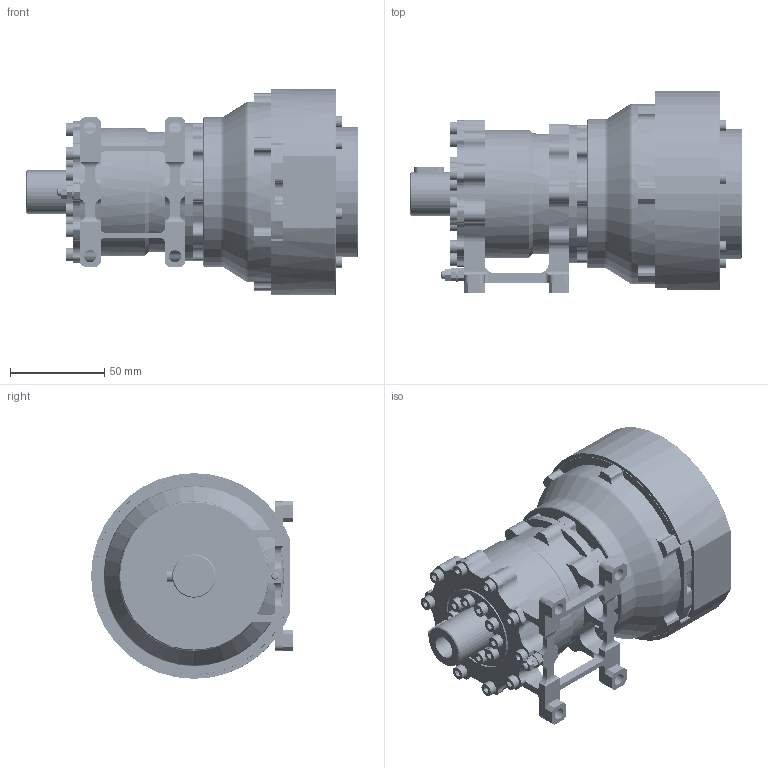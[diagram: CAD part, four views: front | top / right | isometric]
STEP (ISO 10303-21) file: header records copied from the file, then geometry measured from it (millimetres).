
FILE_DESCRIPTION (( 'STEP AP203' ), '1' );
FILE_NAME ('2-10 谐波旋转关节-总装.STEP', '2022-10-17T08:12:40', ( 'OS' ), ( '' ), 'SwSTEP 2.0', 'SolidWorks 2012', '' );
FILE_SCHEMA (( 'CONFIG_CONTROL_DESIGN' ));
Length unit declared in the file: millimetre
Products named in the file (35): 2-10 谐波旋转关节-总装; GBT70.1-M4X20; GBT70.1-M4X10; GBT70.1-M4X12; GBT70.1-M3X8; 谐波旋转关节-谐波减速器XBS50-125; XG-SADM-02-B-迣疏喘謫XBS-50-125粣釱; XG-SADM-02-B-谐波齿轮XBS-50-125柔轮; XG-SADM-02-B-迣疏喘謫XBS-50-125楷汜ん; 谐波旋转关节-71908AC轴承隔圈; 谐波旋转关节-角接触轴承71908AC; 谐波旋转关节-角接触轴承71805AC; 谐波旋转关节-71805AC轴承隔圈; 谐波旋转关节-电机J89B001定子; 谐波旋转关节-电机J89B001转子; 谐波旋转关节-电位计-CJW-JC-5003; 2-10-19-迣疏唅蛌壽誹-す瑩; 2-10-18-谐波旋转关节-输出轴内压圈; 2-10-17-谐波旋转关节-输出轴外压圈; 2-10-16-谐波旋转关节-接地桩螺母; 2-10-15-谐波旋转关节-接地桩垫片; 2-10-14-谐波旋转关节-接地桩; 2-10-13-谐波旋转关节-输出轴; 2-10-12-谐波旋转关节-输出轴垫圈; 2-10-11-谐波旋转关节-支架隔热垫; 2-10-10-谐波旋转关节-输入轴垫圈; 2-10-09-谐波旋转关节-电位计连接座; 2-10-08-谐波旋转关节-防护罩; 2-10-07-谐波旋转关节-电位计垫圈; 2-10-06-谐波旋转关节-电位计连接轴; 2-10-05-谐波旋转关节-电机驱动轴; 2-10-04-谐波旋转关节-输入轴外压圈; 2-10-03-谐波旋转关节-输入轴; 2-10-02-谐波旋转关节-转接座; 2-10-01-谐波旋转关节-支架
Assembly tree (130 placements, depth 3):
  2-10 谐波旋转关节-总装
    2-10-01-谐波旋转关节-支架
    2-10-02-谐波旋转关节-转接座
    2-10-03-谐波旋转关节-输入轴
    2-10-04-谐波旋转关节-输入轴外压圈
    2-10-05-谐波旋转关节-电机驱动轴
    2-10-06-谐波旋转关节-电位计连接轴
    2-10-07-谐波旋转关节-电位计垫圈
    2-10-08-谐波旋转关节-防护罩
    2-10-09-谐波旋转关节-电位计连接座
    2-10-10-谐波旋转关节-输入轴垫圈
    2-10-11-谐波旋转关节-支架隔热垫  x4
    2-10-12-谐波旋转关节-输出轴垫圈
    2-10-13-谐波旋转关节-输出轴
    2-10-14-谐波旋转关节-接地桩
    2-10-15-谐波旋转关节-接地桩垫片
    2-10-16-谐波旋转关节-接地桩螺母  x2
    2-10-17-谐波旋转关节-输出轴外压圈
    2-10-18-谐波旋转关节-输出轴内压圈
    2-10-19-迣疏唅蛌壽誹-す瑩
    谐波旋转关节-电位计-CJW-JC-5003
    谐波旋转关节-电机J89B001转子
    谐波旋转关节-电机J89B001定子
    谐波旋转关节-71805AC轴承隔圈
    谐波旋转关节-角接触轴承71805AC  x2
    谐波旋转关节-角接触轴承71908AC  x2
    谐波旋转关节-71908AC轴承隔圈
    谐波旋转关节-谐波减速器XBS50-125
      XG-SADM-02-B-迣疏喘謫XBS-50-125楷汜ん
      XG-SADM-02-B-谐波齿轮XBS-50-125柔轮
      XG-SADM-02-B-迣疏喘謫XBS-50-125粣釱
    GBT70.1-M3X8  x45
    GBT70.1-M4X12  x14
    GBT70.1-M4X10  x27
    GBT70.1-M4X20  x8
Bounding box: 176 x 107 x 109 mm (x, y, z)
Volume: 520407.7 mm3; surface area: 336346.6 mm2
Topology: 132 solids, 177 shells, 3576 faces, 9310 edges, 6071 vertices
Faces by surface type: plane 1568, cylinder 1481, sphere 224, cone 219, torus 84
Entity records: 74594 total; most frequent: CARTESIAN_POINT 17838, DIRECTION 11369, ORIENTED_EDGE 10042, EDGE_CURVE 5021, AXIS2_PLACEMENT_3D 4674, VERTEX_POINT 3327, CIRCLE 2638, EDGE_LOOP 2502
